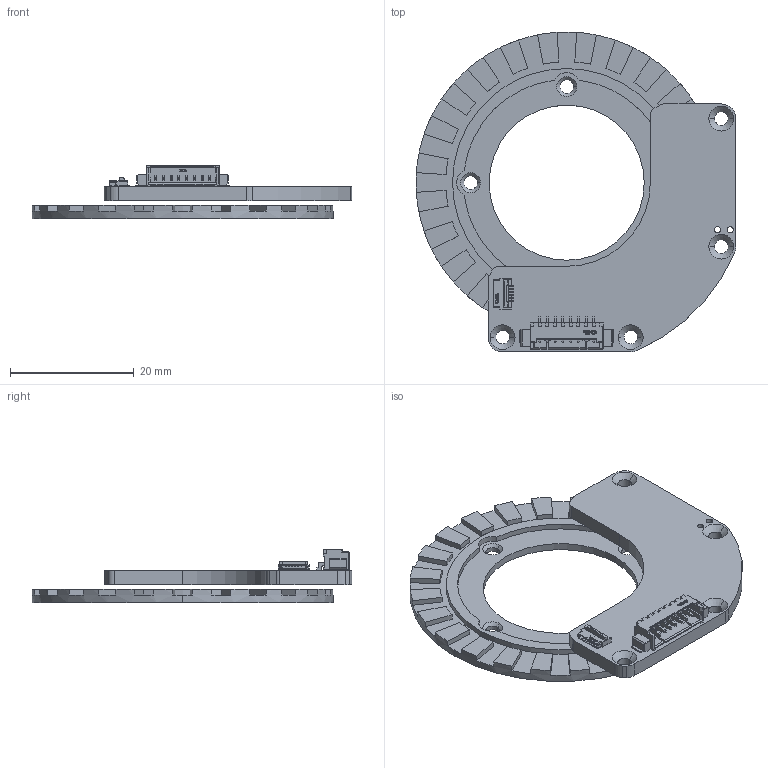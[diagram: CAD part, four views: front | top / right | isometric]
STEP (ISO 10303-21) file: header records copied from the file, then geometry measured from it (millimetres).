
FILE_DESCRIPTION((''),'2;1');
FILE_NAME('PCB_ASM','2024-12-02T',('Cujo'),(''),'PRO/ENGINEER BY PARAMETRIC TECHNOLOGY CORPORATION, 2017170','PRO/ENGINEER BY PARAMETRIC TECHNOLOGY CORPORATION, 2017170','');
FILE_SCHEMA(('CONFIG_CONTROL_DESIGN'));
Products named in the file (70): BOARD; MANIFOLD_SOLID_BREP_72793; MANIFOLD_SOLID_BREP_72297; MANIFOLD_SOLID_BREP_71765; MANIFOLD_SOLID_BREP_71351; MANIFOLD_SOLID_BREP_70808; MANIFOLD_SOLID_BREP_69983; MANIFOLD_SOLID_BREP_69151; MANIFOLD_SOLID_BREP_68737; MANIFOLD_SOLID_BREP_68241; MANIFOLD_SOLID_BREP_67709; MANIFOLD_SOLID_BREP_67295; MANIFOLD_SOLID_BREP_66743; MANIFOLD_SOLID_BREP_66527; MANIFOLD_SOLID_BREP_48799; MANIFOLD_SOLID_BREP_47766; MANIFOLD_SOLID_BREP_46733; CN1_ASM; CN2_ASM; MANIFOLD_SOLID_BREP_191683; MANIFOLD_SOLID_BREP_191187; MANIFOLD_SOLID_BREP_190655; MANIFOLD_SOLID_BREP_190241; MANIFOLD_SOLID_BREP_189698; MANIFOLD_SOLID_BREP_188873; MANIFOLD_SOLID_BREP_188041; MANIFOLD_SOLID_BREP_187627; MANIFOLD_SOLID_BREP_187131; MANIFOLD_SOLID_BREP_186599; MANIFOLD_SOLID_BREP_186185; MANIFOLD_SOLID_BREP_185633; MANIFOLD_SOLID_BREP_185417; MANIFOLD_SOLID_BREP_185265; MANIFOLD_SOLID_BREP_185113; MANIFOLD_SOLID_BREP_184961; MANIFOLD_SOLID_BREP_184809; MANIFOLD_SOLID_BREP_184657; MANIFOLD_SOLID_BREP_184472; MANIFOLD_SOLID_BREP_184287; MANIFOLD_SOLID_BREP_184102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
Assembly tree (69 placements, depth 4):
  PCB_ASM
    BOARD
    CN2_ASM
      CN1_ASM
        MANIFOLD_SOLID_BREP_72793
        MANIFOLD_SOLID_BREP_72297
        MANIFOLD_SOLID_BREP_71765
        MANIFOLD_SOLID_BREP_71351
        MANIFOLD_SOLID_BREP_70808
        MANIFOLD_SOLID_BREP_69983
        MANIFOLD_SOLID_BREP_69151
        MANIFOLD_SOLID_BREP_68737
        MANIFOLD_SOLID_BREP_68241
        MANIFOLD_SOLID_BREP_67709
        MANIFOLD_SOLID_BREP_67295
        MANIFOLD_SOLID_BREP_66743
        MANIFOLD_SOLID_BREP_66527
        MANIFOLD_SOLID_BREP_48799
        MANIFOLD_SOLID_BREP_47766
        MANIFOLD_SOLID_BREP_46733
    FPC2_ASM
      FPC1_ASM
        MANIFOLD_SOLID_BREP_191683
        MANIFOLD_SOLID_BREP_191187
        MANIFOLD_SOLID_BREP_190655
        MANIFOLD_SOLID_BREP_190241
        MANIFOLD_SOLID_BREP_189698
        MANIFOLD_SOLID_BREP_188873
        MANIFOLD_SOLID_BREP_188041
        MANIFOLD_SOLID_BREP_187627
        MANIFOLD_SOLID_BREP_187131
        MANIFOLD_SOLID_BREP_186599
        MANIFOLD_SOLID_BREP_186185
        MANIFOLD_SOLID_BREP_185633
        MANIFOLD_SOLID_BREP_185417
        MANIFOLD_SOLID_BREP_185265
        MANIFOLD_SOLID_BREP_185113
        MANIFOLD_SOLID_BREP_184961
        MANIFOLD_SOLID_BREP_184809
        MANIFOLD_SOLID_BREP_184657
        MANIFOLD_SOLID_BREP_184472
        MANIFOLD_SOLID_BREP_184287
        MANIFOLD_SOLID_BREP_184102
        MANIFOLD_SOLID_BREP_183917
        MANIFOLD_SOLID_BREP_183732
        MANIFOLD_SOLID_BREP_183582
        MANIFOLD_SOLID_BREP_183432
        MANIFOLD_SOLID_BREP_183282
        MANIFOLD_SOLID_BREP_183132
        MANIFOLD_SOLID_BREP_182982
        MANIFOLD_SOLID_BREP_182826
        MANIFOLD_SOLID_BREP_182670
        MANIFOLD_SOLID_BREP_182514
        MANIFOLD_SOLID_BREP_182358
        MANIFOLD_SOLID_BREP_182202
        MANIFOLD_SOLID_BREP_182052
        MANIFOLD_SOLID_BREP_181902
        MANIFOLD_SOLID_BREP_181752
        MANIFOLD_SOLID_BREP_181602
        MANIFOLD_SOLID_BREP_181452
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Bounding box: 51.61 x 51.61 x 8.55 mm (x, y, z)
Volume: 4072.8 mm3; surface area: 6065.8 mm2
Topology: 65 solids, 65 shells, 1589 faces, 4177 edges, 2751 vertices
Faces by surface type: plane 1086, extrusion 250, cylinder 231, cone 16, bspline 4, sphere 2
Entity records: 72254 total; most frequent: CARTESIAN_POINT 20172, ORIENTED_EDGE 8350, DIRECTION 7158, EDGE_CURVE 4175, VECTOR 3436, LINE 3186, VERTEX_POINT 2751, PRESENTATION_STYLE_ASSIGNMENT 2155
